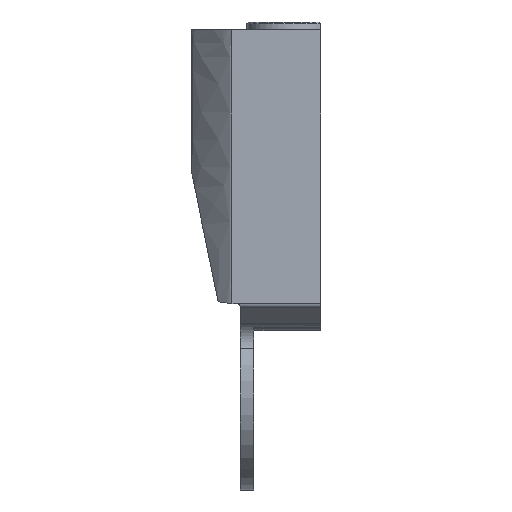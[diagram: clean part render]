
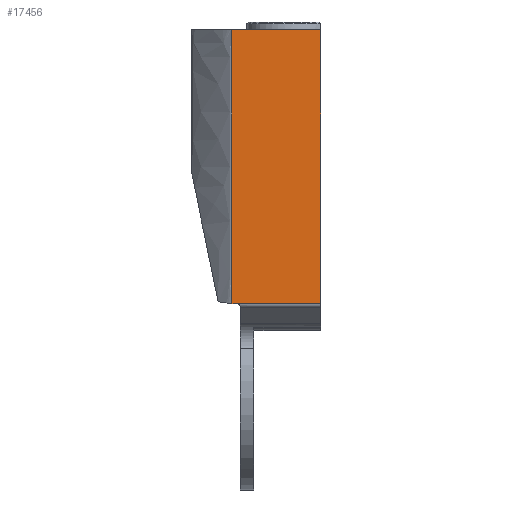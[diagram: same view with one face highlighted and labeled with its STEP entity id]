
A CAD part, front view. The second image highlights one B-rep face of the part: STEP entity #17456.
In plain terms, the highlighted planar face has unit normal (0, -1, 0).
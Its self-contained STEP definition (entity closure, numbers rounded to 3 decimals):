
#265=DIRECTION('',(0.,0.,1.));
#266=VECTOR('',#265,159.477);
#267=CARTESIAN_POINT('',(145.5,-62.,-399.977));
#268=LINE('',#267,#266);
#2119=DIRECTION('',(-1.,0.,0.));
#2120=VECTOR('',#2119,51.8);
#2121=CARTESIAN_POINT('',(145.5,-62.,-240.5));
#2122=LINE('',#2121,#2120);
#4849=DIRECTION('',(-1.,0.,0.));
#4850=VECTOR('',#4849,2.8);
#4851=CARTESIAN_POINT('',(96.5,-62.,-399.977));
#4852=LINE('',#4851,#4850);
#4857=DIRECTION('',(1.,0.,0.));
#4858=VECTOR('',#4857,49.);
#4859=CARTESIAN_POINT('',(96.5,-62.,-399.977));
#4860=LINE('',#4859,#4858);
#5218=DIRECTION('',(0.,0.,-1.));
#5219=VECTOR('',#5218,159.477);
#5220=CARTESIAN_POINT('',(93.7,-62.,-240.5));
#5221=LINE('',#5220,#5219);
#8812=CARTESIAN_POINT('',(145.5,-62.,-399.977));
#8813=VERTEX_POINT('',#8812);
#8814=CARTESIAN_POINT('',(145.5,-62.,-240.5));
#8815=VERTEX_POINT('',#8814);
#9232=CARTESIAN_POINT('',(93.7,-62.,-240.5));
#9233=VERTEX_POINT('',#9232);
#10204=CARTESIAN_POINT('',(96.5,-62.,-399.977));
#10205=VERTEX_POINT('',#10204);
#10206=CARTESIAN_POINT('',(93.7,-62.,-399.977));
#10207=VERTEX_POINT('',#10206);
#17441=CARTESIAN_POINT('',(182.002,-62.,-319.738));
#17442=DIRECTION('',(0.,1.,0.));
#17443=DIRECTION('',(0.,0.,1.));
#17444=AXIS2_PLACEMENT_3D('',#17441,#17442,#17443);
#17445=PLANE('',#17444);
#17446=ORIENTED_EDGE('',*,*,#13503,.F.);
#17447=ORIENTED_EDGE('',*,*,#11056,.F.);
#17449=ORIENTED_EDGE('',*,*,#17448,.F.);
#17451=ORIENTED_EDGE('',*,*,#17450,.T.);
#17453=ORIENTED_EDGE('',*,*,#17452,.F.);
#17454=EDGE_LOOP('',(#17446,#17447,#17449,#17451,#17453));
#17455=FACE_OUTER_BOUND('',#17454,.F.);
#17456=ADVANCED_FACE('',(#17455),#17445,.F.);
#11056=EDGE_CURVE('',#8813,#8815,#268,.T.);
#13503=EDGE_CURVE('',#8815,#9233,#2122,.T.);
#17448=EDGE_CURVE('',#10205,#8813,#4860,.T.);
#17450=EDGE_CURVE('',#10205,#10207,#4852,.T.);
#17452=EDGE_CURVE('',#9233,#10207,#5221,.T.);
